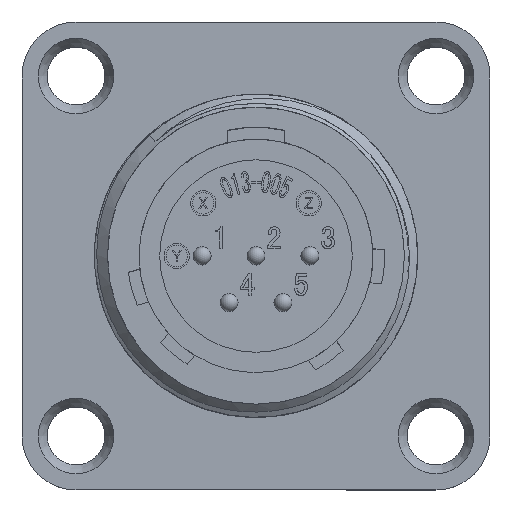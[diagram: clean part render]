
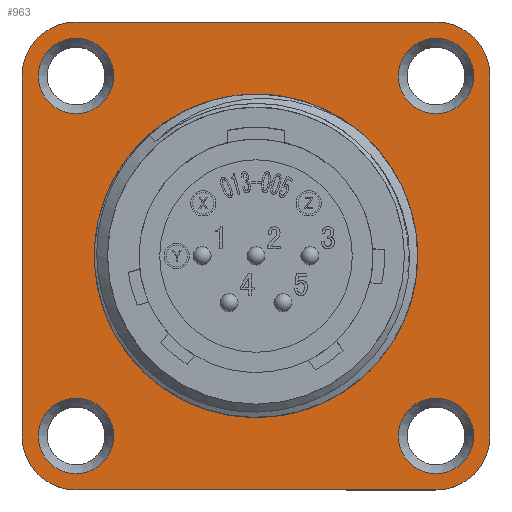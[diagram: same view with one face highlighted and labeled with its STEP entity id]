
A CAD part, top view. The second image highlights one B-rep face of the part: STEP entity #963.
In plain terms, the highlighted planar face has unit normal (0, 0, 1).
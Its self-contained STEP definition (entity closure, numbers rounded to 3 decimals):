
#74 = EDGE_LOOP ( 'NONE', ( #13977 ) ) ;
#175 = CARTESIAN_POINT ( 'NONE',  ( 13., 10., -10.5 ) ) ;
#580 = EDGE_LOOP ( 'NONE', ( #5077 ) ) ;
#844 = VERTEX_POINT ( 'NONE', #21915 ) ;
#963 = ADVANCED_FACE ( 'NONE', ( #8921, #15805, #7820, #6459, #12772, #14690 ), #4241, .T. ) ;
#1378 = VERTEX_POINT ( 'NONE', #4644 ) ;
#1402 = ORIENTED_EDGE ( 'NONE', *, *, #9211, .F. ) ;
#1889 = CIRCLE ( 'NONE', #17439, 2.1 ) ;
#1950 = DIRECTION ( 'NONE',  ( 0., 0., 1. ) ) ;
#1963 = CIRCLE ( 'NONE', #19047, 2.1 ) ;
#2381 = CARTESIAN_POINT ( 'NONE',  ( -10., -13., -10.5 ) ) ;
#2577 = CARTESIAN_POINT ( 'NONE',  ( -7.9, -10., -10.5 ) ) ;
#2779 = CARTESIAN_POINT ( 'NONE',  ( -10., -10., -10.5 ) ) ;
#2787 = LINE ( 'NONE', #21892, #8302 ) ;
#2859 = DIRECTION ( 'NONE',  ( -1., 0., 0. ) ) ;
#3075 = ORIENTED_EDGE ( 'NONE', *, *, #11031, .F. ) ;
#3886 = VERTEX_POINT ( 'NONE', #13632 ) ;
#4117 = CARTESIAN_POINT ( 'NONE',  ( -10., -10., -10.5 ) ) ;
#4139 = VECTOR ( 'NONE', #14881, 1000. ) ;
#4241 = PLANE ( 'NONE',  #9959 ) ;
#4425 = CARTESIAN_POINT ( 'NONE',  ( -10., 13., -10.5 ) ) ;
#4644 = CARTESIAN_POINT ( 'NONE',  ( 12.1, 10., -10.5 ) ) ;
#4809 = EDGE_LOOP ( 'NONE', ( #3075, #18699, #14348, #7049, #12528, #7001, #9996, #1402 ) ) ;
#5077 = ORIENTED_EDGE ( 'NONE', *, *, #7077, .F. ) ;
#5250 = VERTEX_POINT ( 'NONE', #18545 ) ;
#5346 = CARTESIAN_POINT ( 'NONE',  ( -10., -10., -10.5 ) ) ;
#5556 = CARTESIAN_POINT ( 'NONE',  ( 10., 10., -10.5 ) ) ;
#6051 = VERTEX_POINT ( 'NONE', #21126 ) ;
#6459 = FACE_BOUND ( 'NONE', #11464, .T. ) ;
#6510 = AXIS2_PLACEMENT_3D ( 'NONE', #22161, #11662, #22229 ) ;
#7001 = ORIENTED_EDGE ( 'NONE', *, *, #22414, .F. ) ;
#7049 = ORIENTED_EDGE ( 'NONE', *, *, #16214, .F. ) ;
#7077 = EDGE_CURVE ( 'NONE', #17845, #17845, #1889, .T. ) ;
#7175 = EDGE_LOOP ( 'NONE', ( #18176 ) ) ;
#7180 = DIRECTION ( 'NONE',  ( 0., 0., 1. ) ) ;
#7344 = LINE ( 'NONE', #9546, #9513 ) ;
#7814 = AXIS2_PLACEMENT_3D ( 'NONE', #8629, #10410, #14095 ) ;
#7820 = FACE_BOUND ( 'NONE', #7175, .T. ) ;
#7821 = CARTESIAN_POINT ( 'NONE',  ( 10., 13., -10.5 ) ) ;
#7896 = EDGE_LOOP ( 'NONE', ( #12132 ) ) ;
#7983 = CIRCLE ( 'NONE', #21039, 3. ) ;
#8165 = DIRECTION ( 'NONE',  ( 0., 0., -1. ) ) ;
#8302 = VECTOR ( 'NONE', #2859, 1000. ) ;
#8573 = VERTEX_POINT ( 'NONE', #4425 ) ;
#8629 = CARTESIAN_POINT ( 'NONE',  ( -10., 10., -10.5 ) ) ;
#8798 = CIRCLE ( 'NONE', #7814, 2.1 ) ;
#8830 = CARTESIAN_POINT ( 'NONE',  ( 10., -10., -10.5 ) ) ;
#8921 = FACE_BOUND ( 'NONE', #580, .T. ) ;
#9184 = DIRECTION ( 'NONE',  ( 0., 0., -1. ) ) ;
#9211 = EDGE_CURVE ( 'NONE', #6051, #3886, #11429, .T. ) ;
#9513 = VECTOR ( 'NONE', #14789, 1000. ) ;
#9546 = CARTESIAN_POINT ( 'NONE',  ( 13., 10., -10.5 ) ) ;
#9793 = CARTESIAN_POINT ( 'NONE',  ( 12.1, -10., -10.5 ) ) ;
#9959 = AXIS2_PLACEMENT_3D ( 'NONE', #2779, #19966, #13150 ) ;
#9993 = DIRECTION ( 'NONE',  ( 0., 0., -1. ) ) ;
#9996 = ORIENTED_EDGE ( 'NONE', *, *, #18002, .F. ) ;
#10410 = DIRECTION ( 'NONE',  ( 0., 0., 1. ) ) ;
#10488 = VERTEX_POINT ( 'NONE', #175 ) ;
#10934 = CARTESIAN_POINT ( 'NONE',  ( 10., -13., -10.5 ) ) ;
#10981 = DIRECTION ( 'NONE',  ( -1., 0., 0. ) ) ;
#11031 = EDGE_CURVE ( 'NONE', #15051, #6051, #17407, .T. ) ;
#11429 = LINE ( 'NONE', #13688, #17187 ) ;
#11464 = EDGE_LOOP ( 'NONE', ( #20772 ) ) ;
#11488 = CARTESIAN_POINT ( 'NONE',  ( -7.9, 10., -10.5 ) ) ;
#11662 = DIRECTION ( 'NONE',  ( 0., 0., -1. ) ) ;
#12130 = DIRECTION ( 'NONE',  ( 0., 1., 0. ) ) ;
#12132 = ORIENTED_EDGE ( 'NONE', *, *, #21528, .F. ) ;
#12224 = DIRECTION ( 'NONE',  ( 1., 0., 0. ) ) ;
#12229 = VERTEX_POINT ( 'NONE', #10934 ) ;
#12528 = ORIENTED_EDGE ( 'NONE', *, *, #14931, .F. ) ;
#12536 = DIRECTION ( 'NONE',  ( 0., 0., 1. ) ) ;
#12604 = CARTESIAN_POINT ( 'NONE',  ( 10., 10., -10.5 ) ) ;
#12772 = FACE_BOUND ( 'NONE', #74, .T. ) ;
#13150 = DIRECTION ( 'NONE',  ( 1., 0., 0. ) ) ;
#13563 = EDGE_CURVE ( 'NONE', #12229, #15051, #2787, .T. ) ;
#13632 = CARTESIAN_POINT ( 'NONE',  ( -13., 10., -10.5 ) ) ;
#13688 = CARTESIAN_POINT ( 'NONE',  ( -13., 10., -10.5 ) ) ;
#13730 = AXIS2_PLACEMENT_3D ( 'NONE', #16895, #8165, #20415 ) ;
#13977 = ORIENTED_EDGE ( 'NONE', *, *, #15889, .T. ) ;
#14095 = DIRECTION ( 'NONE',  ( 1., 0., 0. ) ) ;
#14309 = VERTEX_POINT ( 'NONE', #11488 ) ;
#14348 = ORIENTED_EDGE ( 'NONE', *, *, #14780, .F. ) ;
#14424 = CIRCLE ( 'NONE', #18004, 2.1 ) ;
#14425 = EDGE_CURVE ( 'NONE', #14309, #14309, #8798, .T. ) ;
#14650 = DIRECTION ( 'NONE',  ( 1., 0., 0. ) ) ;
#14690 = FACE_OUTER_BOUND ( 'NONE', #4809, .T. ) ;
#14780 = EDGE_CURVE ( 'NONE', #5250, #12229, #7983, .T. ) ;
#14789 = DIRECTION ( 'NONE',  ( 0., -1., 0. ) ) ;
#14881 = DIRECTION ( 'NONE',  ( 1., 0., 0. ) ) ;
#14931 = EDGE_CURVE ( 'NONE', #21479, #10488, #19486, .T. ) ;
#15051 = VERTEX_POINT ( 'NONE', #2381 ) ;
#15805 = FACE_BOUND ( 'NONE', #7896, .T. ) ;
#15889 = EDGE_CURVE ( 'NONE', #844, #844, #17765, .T. ) ;
#16214 = EDGE_CURVE ( 'NONE', #10488, #5250, #7344, .T. ) ;
#16821 = DIRECTION ( 'NONE',  ( -1., 0., 0. ) ) ;
#16895 = CARTESIAN_POINT ( 'NONE',  ( -10., 10., -10.5 ) ) ;
#17187 = VECTOR ( 'NONE', #12130, 1000. ) ;
#17407 = CIRCLE ( 'NONE', #20251, 3. ) ;
#17439 = AXIS2_PLACEMENT_3D ( 'NONE', #5346, #7180, #22596 ) ;
#17765 = CIRCLE ( 'NONE', #6510, 8.98 ) ;
#17814 = DIRECTION ( 'NONE',  ( 1., 0., 0. ) ) ;
#17845 = VERTEX_POINT ( 'NONE', #2577 ) ;
#18002 = EDGE_CURVE ( 'NONE', #3886, #8573, #22644, .T. ) ;
#18004 = AXIS2_PLACEMENT_3D ( 'NONE', #5556, #1950, #17814 ) ;
#18176 = ORIENTED_EDGE ( 'NONE', *, *, #18853, .F. ) ;
#18545 = CARTESIAN_POINT ( 'NONE',  ( 13., -10., -10.5 ) ) ;
#18678 = AXIS2_PLACEMENT_3D ( 'NONE', #12604, #21484, #10981 ) ;
#18699 = ORIENTED_EDGE ( 'NONE', *, *, #13563, .F. ) ;
#18853 = EDGE_CURVE ( 'NONE', #1378, #1378, #14424, .T. ) ;
#19047 = AXIS2_PLACEMENT_3D ( 'NONE', #8830, #12536, #12224 ) ;
#19486 = CIRCLE ( 'NONE', #18678, 3. ) ;
#19966 = DIRECTION ( 'NONE',  ( 0., 0., 1. ) ) ;
#20251 = AXIS2_PLACEMENT_3D ( 'NONE', #4117, #9184, #14650 ) ;
#20415 = DIRECTION ( 'NONE',  ( 1., 0., 0. ) ) ;
#20772 = ORIENTED_EDGE ( 'NONE', *, *, #14425, .F. ) ;
#21039 = AXIS2_PLACEMENT_3D ( 'NONE', #22191, #9993, #16821 ) ;
#21126 = CARTESIAN_POINT ( 'NONE',  ( -13., -10., -10.5 ) ) ;
#21442 = LINE ( 'NONE', #7821, #4139 ) ;
#21479 = VERTEX_POINT ( 'NONE', #22565 ) ;
#21484 = DIRECTION ( 'NONE',  ( 0., 0., -1. ) ) ;
#21528 = EDGE_CURVE ( 'NONE', #22491, #22491, #1963, .T. ) ;
#21892 = CARTESIAN_POINT ( 'NONE',  ( 10., -13., -10.5 ) ) ;
#21915 = CARTESIAN_POINT ( 'NONE',  ( 8.98, 0., -10.5 ) ) ;
#22161 = CARTESIAN_POINT ( 'NONE',  ( 0., 0., -10.5 ) ) ;
#22191 = CARTESIAN_POINT ( 'NONE',  ( 10., -10., -10.5 ) ) ;
#22229 = DIRECTION ( 'NONE',  ( 1., 0., 0. ) ) ;
#22414 = EDGE_CURVE ( 'NONE', #8573, #21479, #21442, .T. ) ;
#22491 = VERTEX_POINT ( 'NONE', #9793 ) ;
#22565 = CARTESIAN_POINT ( 'NONE',  ( 10., 13., -10.5 ) ) ;
#22596 = DIRECTION ( 'NONE',  ( 1., 0., 0. ) ) ;
#22644 = CIRCLE ( 'NONE', #13730, 3. ) ;
